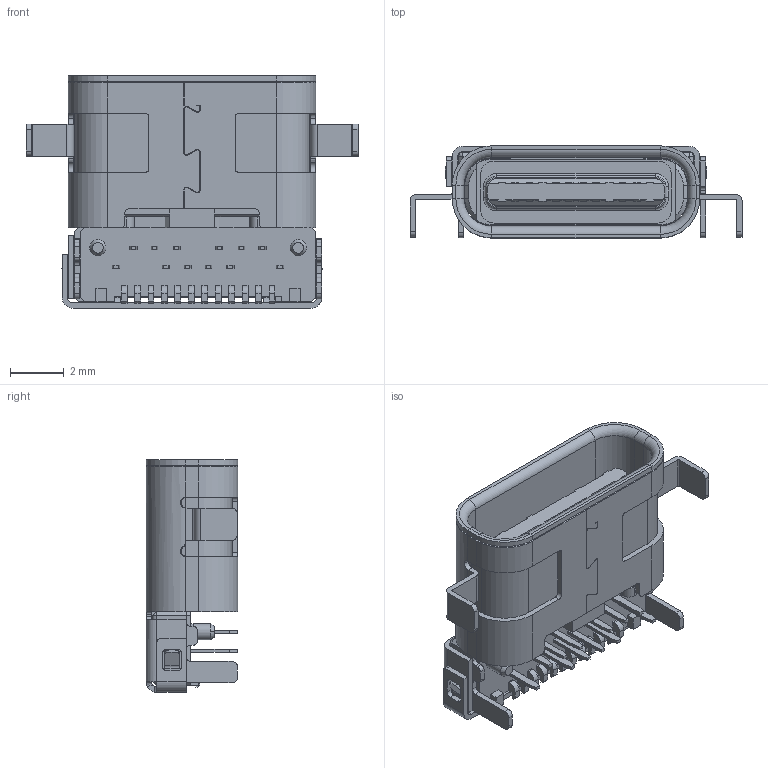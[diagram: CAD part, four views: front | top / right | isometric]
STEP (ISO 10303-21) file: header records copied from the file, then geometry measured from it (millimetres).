
FILE_DESCRIPTION((''),'2;1');
FILE_NAME('GT-USB-7009B','2020-08-22T',('Administrator'),(''),'PRO/ENGINEER BY PARAMETRIC TECHNOLOGY CORPORATION, 2013040','PRO/ENGINEER BY PARAMETRIC TECHNOLOGY CORPORATION, 2013040','');
FILE_SCHEMA(('CONFIG_CONTROL_DESIGN'));
Length unit declared in the file: millimetre
Products named in the file (1): GT-USB-7009B
Bounding box: 12.35 x 3.42 x 8.65 mm (x, y, z)
Volume: 123.3 mm3; surface area: 837.4 mm2
Topology: 1 solids, 75 shells, 1825 faces, 4815 edges, 3133 vertices
Faces by surface type: plane 1502, cylinder 243, cone 40, torus 24, extrusion 12, bspline 4
Entity records: 56043 total; most frequent: CARTESIAN_POINT 10634, ORIENTED_EDGE 9622, DIRECTION 8894, EDGE_CURVE 4811, VECTOR 4154, LINE 4142, VERTEX_POINT 3133, AXIS2_PLACEMENT_3D 2370
